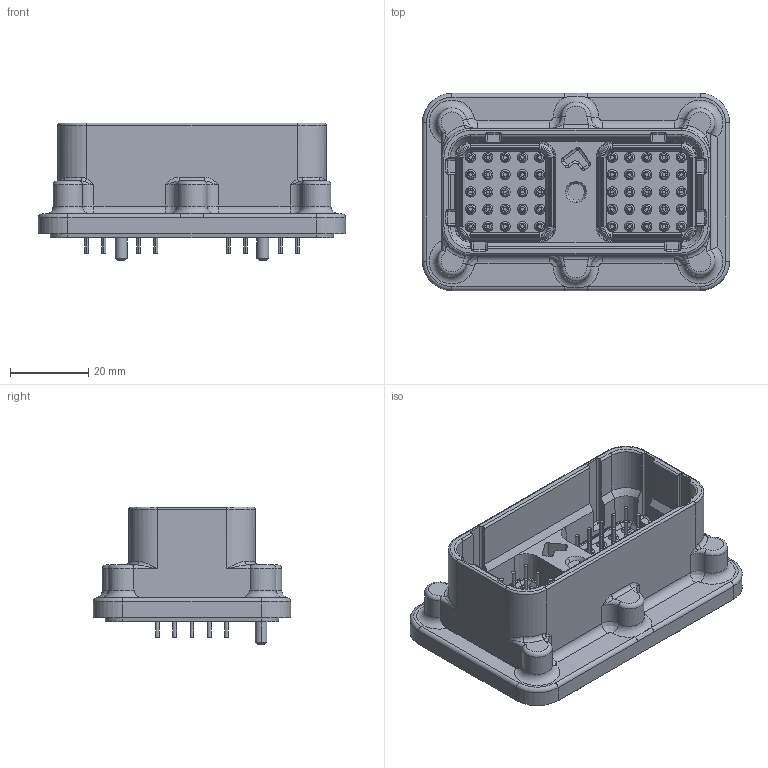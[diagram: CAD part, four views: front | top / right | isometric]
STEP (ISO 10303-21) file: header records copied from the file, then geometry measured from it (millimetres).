
FILE_DESCRIPTION((''),'2;1');
FILE_NAME('C-DRC20-50P09','2013-05-28T',('workeradm'),('Tyco Electronics Ltd.'),'PRO/ENGINEER BY PARAMETRIC TECHNOLOGY CORPORATION, 2011490','PRO/ENGINEER BY PARAMETRIC TECHNOLOGY CORPORATION, 2011490','');
FILE_SCHEMA(('AUTOMOTIVE_DESIGN { 1 0 10303 214 1 1 1 1 }'));
Length unit declared in the file: millimetre
Products named in the file (1): C-DRC20-50P09
Bounding box: 78.59 x 50.47 x 35.26 mm (x, y, z)
Volume: 38616.8 mm3; surface area: 21550 mm2
Topology: 1 solids, 1 shells, 1429 faces, 3378 edges, 2146 vertices
Faces by surface type: plane 708, cylinder 363, cone 250, torus 61, bspline 31, sphere 16
Entity records: 42395 total; most frequent: CARTESIAN_POINT 8302, DIRECTION 7306, ORIENTED_EDGE 6756, EDGE_CURVE 3378, AXIS2_PLACEMENT_3D 2590, VERTEX_POINT 2146, VECTOR 2126, LINE 2126
